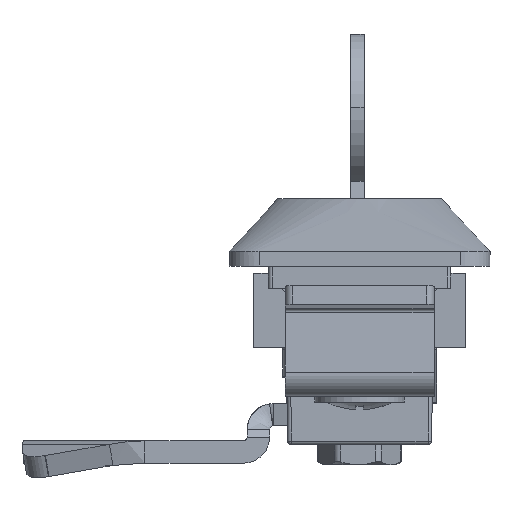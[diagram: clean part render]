
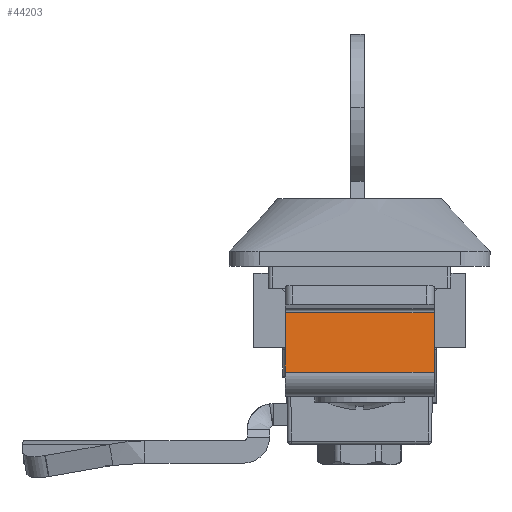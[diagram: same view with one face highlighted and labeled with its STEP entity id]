
A CAD part, front view. The second image highlights one B-rep face of the part: STEP entity #44203.
In plain terms, the highlighted planar face has unit normal (0, -0.996, 0.087) as drawn and (1, 0, 0) by its records, which use the part's own axes.
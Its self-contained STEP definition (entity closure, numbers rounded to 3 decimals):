
#33232 = CARTESIAN_POINT ( 'NONE',  ( 0., -11.3, 0. ) ) ;
#33279 = LINE ( 'NONE', #33352, #33343 ) ;
#33288 = CARTESIAN_POINT ( 'NONE',  ( 0., -0.285, 0. ) ) ;
#33289 = LINE ( 'NONE', #33288, #33376 ) ;
#33342 = DIRECTION ( 'NONE',  ( 0., 0., -1. ) ) ;
#33343 = VECTOR ( 'NONE', #33342, 1000. ) ;
#33351 = CARTESIAN_POINT ( 'NONE',  ( 0., -11.3, 20. ) ) ;
#33352 = CARTESIAN_POINT ( 'NONE',  ( 0., -11.3, 20. ) ) ;
#33375 = DIRECTION ( 'NONE',  ( 0., -1., 0. ) ) ;
#33376 = VECTOR ( 'NONE', #33375, 1000. ) ;
#33387 = CARTESIAN_POINT ( 'NONE',  ( 0., -11.8, 20. ) ) ;
#33388 = LINE ( 'NONE', #33387, #33453 ) ;
#33452 = DIRECTION ( 'NONE',  ( 0., 1., 0. ) ) ;
#33453 = VECTOR ( 'NONE', #33452, 1000. ) ;
#33497 = CARTESIAN_POINT ( 'NONE',  ( 0., -3.274, 0. ) ) ;
#33519 = DIRECTION ( 'NONE',  ( 1., 0., 0. ) ) ;
#33520 = CARTESIAN_POINT ( 'NONE',  ( 0., -2.728, 20. ) ) ;
#33521 = AXIS2_PLACEMENT_3D ( 'NONE', #33520, #33519, #33641 ) ;
#33573 = PLANE ( 'NONE',  #33521 ) ;
#33574 = FACE_OUTER_BOUND ( 'NONE', #44054, .T. ) ;
#33583 = CARTESIAN_POINT ( 'NONE',  ( 0., -3.274, 20. ) ) ;
#33585 = LINE ( 'NONE', #33583, #33685 ) ;
#33641 = DIRECTION ( 'NONE',  ( 0., 1., 0. ) ) ;
#33655 = CARTESIAN_POINT ( 'NONE',  ( 0., -3.274, 20. ) ) ;
#33684 = DIRECTION ( 'NONE',  ( 0., 0., -1. ) ) ;
#33685 = VECTOR ( 'NONE', #33684, 1000. ) ;
#44003 = VERTEX_POINT ( 'NONE', #33232 ) ;
#44026 = EDGE_CURVE ( 'NONE', #44177, #44003, #33289, .T. ) ;
#44054 = EDGE_LOOP ( 'NONE', ( #44067, #44191, #44215, #44099 ) ) ;
#44067 = ORIENTED_EDGE ( 'NONE', *, *, #44132, .F. ) ;
#44089 = EDGE_CURVE ( 'NONE', #44096, #44003, #33279, .T. ) ;
#44096 = VERTEX_POINT ( 'NONE', #33351 ) ;
#44099 = ORIENTED_EDGE ( 'NONE', *, *, #44218, .F. ) ;
#44132 = EDGE_CURVE ( 'NONE', #44096, #44235, #33388, .T. ) ;
#44177 = VERTEX_POINT ( 'NONE', #33497 ) ;
#44191 = ORIENTED_EDGE ( 'NONE', *, *, #44089, .T. ) ;
#44203 = ADVANCED_FACE ( 'NONE', ( #33574 ), #33573, .T. ) ;
#44215 = ORIENTED_EDGE ( 'NONE', *, *, #44026, .F. ) ;
#44218 = EDGE_CURVE ( 'NONE', #44235, #44177, #33585, .T. ) ;
#44235 = VERTEX_POINT ( 'NONE', #33655 ) ;
